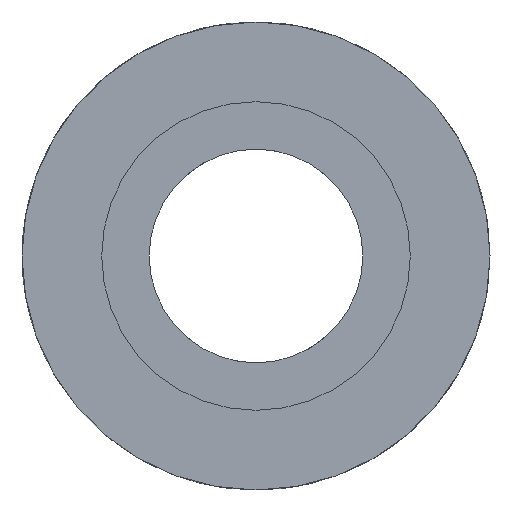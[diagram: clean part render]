
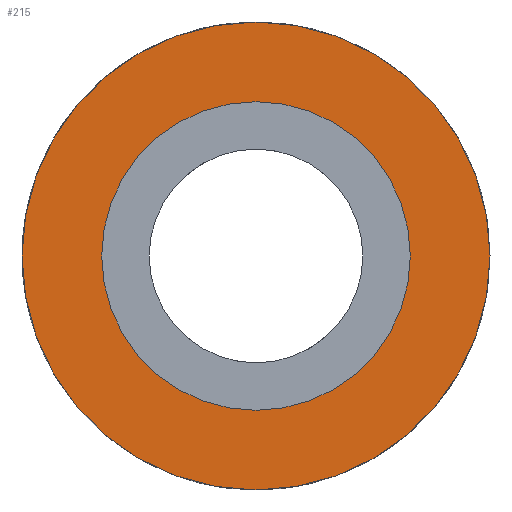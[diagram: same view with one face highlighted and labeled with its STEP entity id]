
A CAD part, left-side view. The second image highlights one B-rep face of the part: STEP entity #215.
In plain terms, the highlighted planar face has unit normal (-1, 0, 0).
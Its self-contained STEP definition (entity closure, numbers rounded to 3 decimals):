
#15=FACE_BOUND($,#52,.T.);
#37=FACE_OUTER_BOUND($,#51,.T.);
#51=EDGE_LOOP($,(#181));
#52=EDGE_LOOP($,(#182));
#66=CIRCLE($,#239,0.787);
#68=CIRCLE($,#242,1.194);
#111=VERTEX_POINT($,#422);
#113=VERTEX_POINT($,#427);
#138=EDGE_CURVE($,#111,#111,#66,.T.);
#140=EDGE_CURVE($,#113,#113,#68,.T.);
#181=ORIENTED_EDGE($,*,*,#140,.F.);
#182=ORIENTED_EDGE($,*,*,#138,.T.);
#203=PLANE($,#241);
#215=ADVANCED_FACE($,(#37,#15),#203,.T.);
#239=AXIS2_PLACEMENT_3D($,#423,#295,#296);
#241=AXIS2_PLACEMENT_3D($,#426,#299,#300);
#242=AXIS2_PLACEMENT_3D($,#428,#301,#302);
#295=DIRECTION('center_axis',(1.,0.,0.));
#296=DIRECTION('ref_axis',(0.,1.,0.));
#299=DIRECTION('center_axis',(-1.,0.,0.));
#300=DIRECTION('ref_axis',(0.,0.,1.));
#301=DIRECTION('center_axis',(1.,0.,0.));
#302=DIRECTION('ref_axis',(0.,1.,0.));
#422=CARTESIAN_POINT('',(1.143,0.787,0.));
#423=CARTESIAN_POINT('Origin',(1.143,0.,0.));
#426=CARTESIAN_POINT('Origin',(1.143,0.991,0.));
#427=CARTESIAN_POINT('',(1.143,1.194,0.));
#428=CARTESIAN_POINT('Origin',(1.143,0.,0.));
